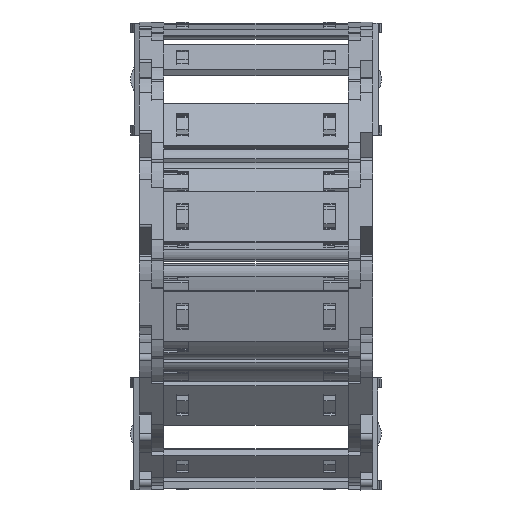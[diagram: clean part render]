
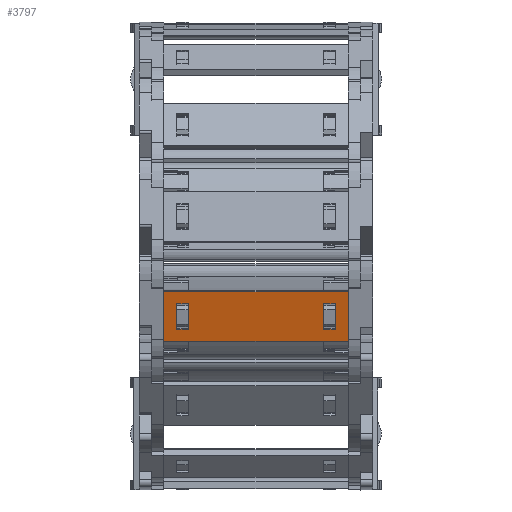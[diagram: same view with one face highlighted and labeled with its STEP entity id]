
A CAD part, top view. The second image highlights one B-rep face of the part: STEP entity #3797.
In plain terms, the highlighted planar face has unit normal (0, -0.259, 0.966) as drawn and (0, 1, 0) by its records, which use the part's own axes.
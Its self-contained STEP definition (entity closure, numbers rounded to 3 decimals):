
#2923=DIRECTION('',(0.,0.,1.));
#2924=VECTOR('',#2923,15.8);
#2925=CARTESIAN_POINT('',(42.24,1.5,-7.9));
#2926=LINE('',#2925,#2924);
#2930=DIRECTION('',(-1.,0.,0.));
#2931=VECTOR('',#2930,57.);
#2932=CARTESIAN_POINT('',(42.24,1.5,7.9));
#2933=LINE('',#2932,#2931);
#2937=DIRECTION('',(0.,0.,-1.));
#2938=VECTOR('',#2937,15.8);
#2939=CARTESIAN_POINT('',(-14.76,1.5,7.9));
#2940=LINE('',#2939,#2938);
#2944=DIRECTION('',(1.,0.,0.));
#2945=VECTOR('',#2944,3.648);
#2946=CARTESIAN_POINT('',(34.622,1.5,4.075));
#2947=LINE('',#2946,#2945);
#2951=DIRECTION('',(0.,0.,-1.));
#2952=VECTOR('',#2951,8.15);
#2953=CARTESIAN_POINT('',(38.27,1.5,4.075));
#2954=LINE('',#2953,#2952);
#2958=DIRECTION('',(-1.,0.,0.));
#2959=VECTOR('',#2958,3.648);
#2960=CARTESIAN_POINT('',(38.27,1.5,-4.075));
#2961=LINE('',#2960,#2959);
#2965=DIRECTION('',(0.,0.,-1.));
#2966=VECTOR('',#2965,8.15);
#2967=CARTESIAN_POINT('',(-7.142,1.5,4.075));
#2968=LINE('',#2967,#2966);
#2972=DIRECTION('',(-1.,0.,0.));
#2973=VECTOR('',#2972,3.648);
#2974=CARTESIAN_POINT('',(-7.142,1.5,-4.075));
#2975=LINE('',#2974,#2973);
#2979=DIRECTION('',(0.,0.,1.));
#2980=VECTOR('',#2979,8.15);
#2981=CARTESIAN_POINT('',(-10.79,1.5,-4.075));
#2982=LINE('',#2981,#2980);
#2986=DIRECTION('',(1.,0.,0.));
#2987=VECTOR('',#2986,3.648);
#2988=CARTESIAN_POINT('',(-10.79,1.5,4.075));
#2989=LINE('',#2988,#2987);
#3000=DIRECTION('',(-1.,0.,0.));
#3001=VECTOR('',#3000,57.);
#3002=CARTESIAN_POINT('',(42.24,1.5,-7.9));
#3003=LINE('',#3002,#3001);
#3208=DIRECTION('',(0.,0.,-1.));
#3209=VECTOR('',#3208,8.15);
#3210=CARTESIAN_POINT('',(34.622,1.5,4.075));
#3211=LINE('',#3210,#3209);
#3507=CARTESIAN_POINT('',(38.27,1.5,4.075));
#3508=VERTEX_POINT('',#3507);
#3509=CARTESIAN_POINT('',(34.622,1.5,4.075));
#3510=VERTEX_POINT('',#3509);
#3551=CARTESIAN_POINT('',(34.622,1.5,-4.075));
#3552=VERTEX_POINT('',#3551);
#3553=CARTESIAN_POINT('',(38.27,1.5,-4.075));
#3554=VERTEX_POINT('',#3553);
#3555=CARTESIAN_POINT('',(42.24,1.5,7.9));
#3557=VERTEX_POINT('',#3555);
#3559=CARTESIAN_POINT('',(42.24,1.5,-7.9));
#3560=VERTEX_POINT('',#3559);
#3583=CARTESIAN_POINT('',(-7.142,1.5,4.075));
#3584=CARTESIAN_POINT('',(-7.142,1.5,-4.075));
#3585=VERTEX_POINT('',#3583);
#3586=VERTEX_POINT('',#3584);
#3587=CARTESIAN_POINT('',(-10.79,1.5,-4.075));
#3588=VERTEX_POINT('',#3587);
#3589=CARTESIAN_POINT('',(-10.79,1.5,4.075));
#3590=VERTEX_POINT('',#3589);
#3591=CARTESIAN_POINT('',(-14.76,1.5,7.9));
#3592=VERTEX_POINT('',#3591);
#3595=CARTESIAN_POINT('',(-14.76,1.5,-7.9));
#3596=VERTEX_POINT('',#3595);
#3766=CARTESIAN_POINT('',(73.98,1.5,10.061));
#3767=DIRECTION('',(0.,-1.,0.));
#3768=DIRECTION('',(0.,0.,-1.));
#3769=AXIS2_PLACEMENT_3D('',#3766,#3767,#3768);
#3770=PLANE('',#3769);
#3771=ORIENTED_EDGE('',*,*,#3669,.T.);
#3772=ORIENTED_EDGE('',*,*,#3707,.T.);
#3773=ORIENTED_EDGE('',*,*,#3732,.T.);
#3775=ORIENTED_EDGE('',*,*,#3774,.F.);
#3776=EDGE_LOOP('',(#3771,#3772,#3773,#3775));
#3777=FACE_OUTER_BOUND('',#3776,.F.);
#3779=ORIENTED_EDGE('',*,*,#3778,.F.);
#3780=ORIENTED_EDGE('',*,*,#3608,.T.);
#3782=ORIENTED_EDGE('',*,*,#3781,.T.);
#3784=ORIENTED_EDGE('',*,*,#3783,.T.);
#3785=EDGE_LOOP('',(#3779,#3780,#3782,#3784));
#3786=FACE_BOUND('',#3785,.F.);
#3788=ORIENTED_EDGE('',*,*,#3787,.T.);
#3790=ORIENTED_EDGE('',*,*,#3789,.T.);
#3792=ORIENTED_EDGE('',*,*,#3791,.T.);
#3794=ORIENTED_EDGE('',*,*,#3793,.T.);
#3795=EDGE_LOOP('',(#3788,#3790,#3792,#3794));
#3796=FACE_BOUND('',#3795,.F.);
#3797=ADVANCED_FACE('',(#3777,#3786,#3796),#3770,.F.);
#3608=EDGE_CURVE('',#3510,#3508,#2947,.T.);
#3669=EDGE_CURVE('',#3560,#3557,#2926,.T.);
#3707=EDGE_CURVE('',#3557,#3592,#2933,.T.);
#3732=EDGE_CURVE('',#3592,#3596,#2940,.T.);
#3774=EDGE_CURVE('',#3560,#3596,#3003,.T.);
#3778=EDGE_CURVE('',#3510,#3552,#3211,.T.);
#3781=EDGE_CURVE('',#3508,#3554,#2954,.T.);
#3783=EDGE_CURVE('',#3554,#3552,#2961,.T.);
#3787=EDGE_CURVE('',#3585,#3586,#2968,.T.);
#3789=EDGE_CURVE('',#3586,#3588,#2975,.T.);
#3791=EDGE_CURVE('',#3588,#3590,#2982,.T.);
#3793=EDGE_CURVE('',#3590,#3585,#2989,.T.);
